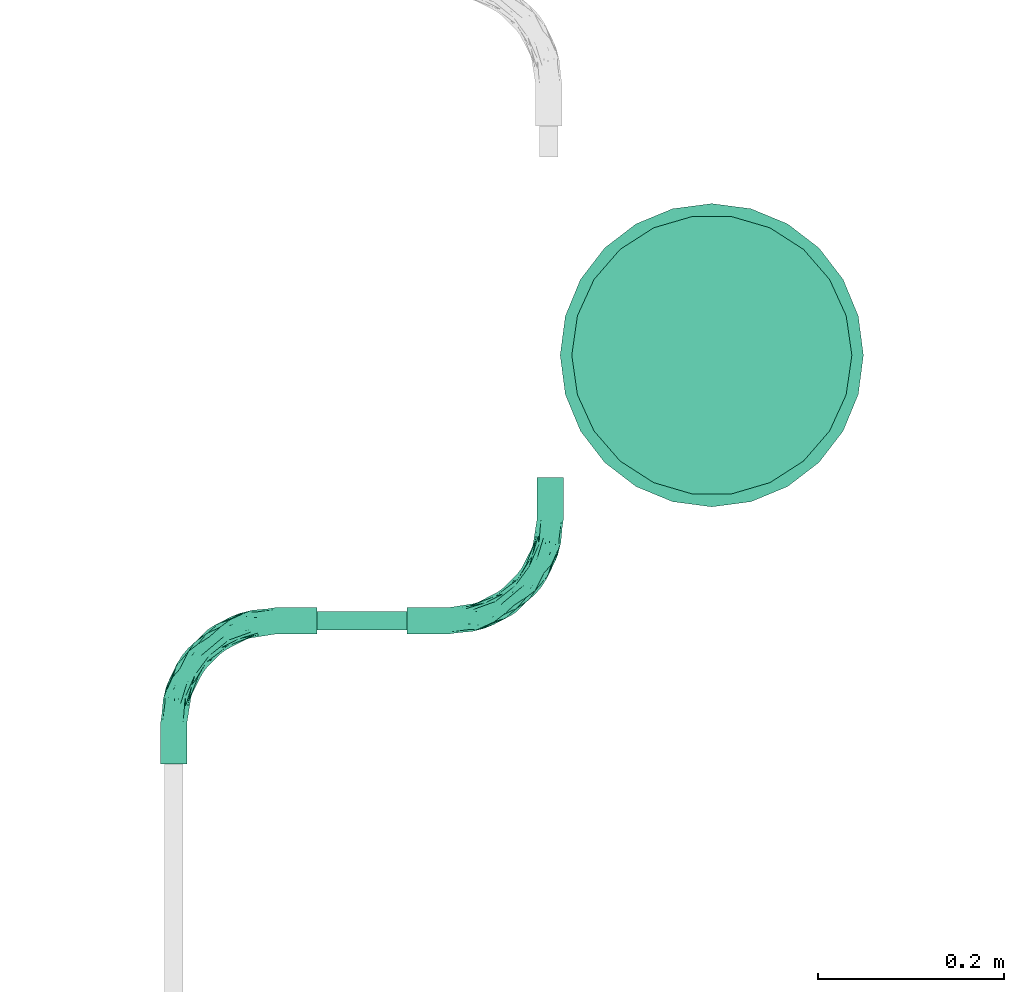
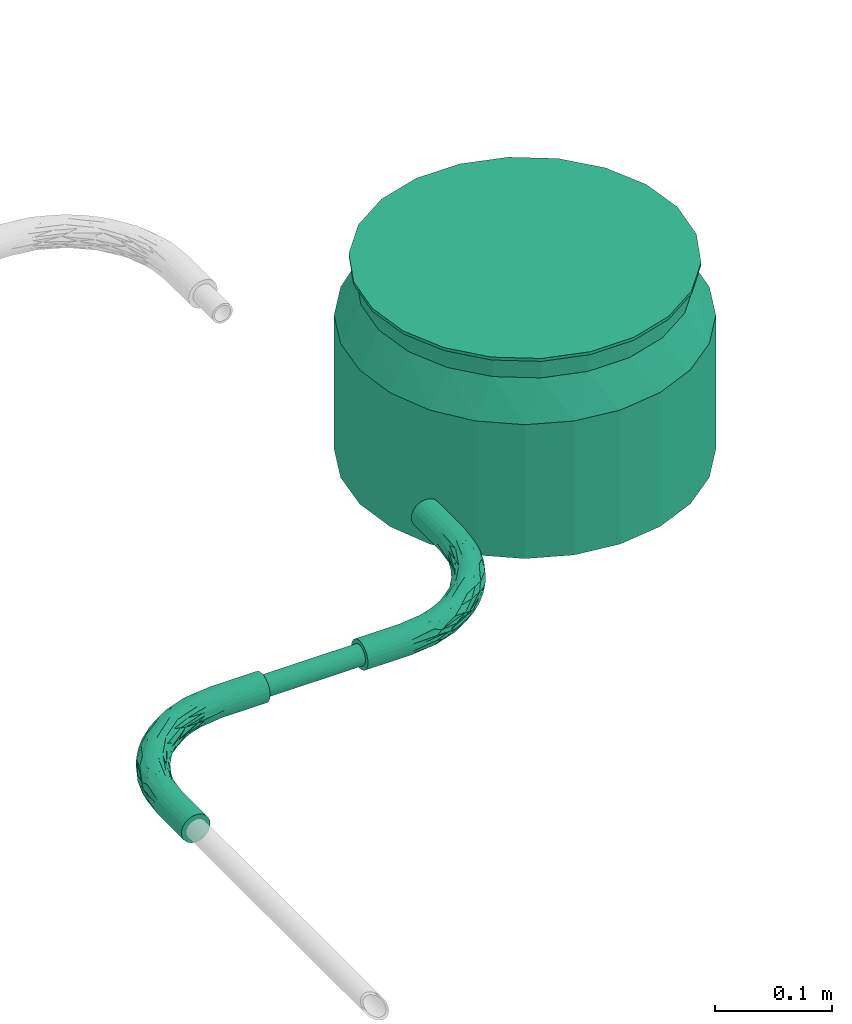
# One storey, part 25 of 51: 2 flow fittings, 1 flow segment, 1 flow terminal.
"""IFC2X3 building model written with IfcOpenShell, lengths in millimetres."""

from ifc_helpers import new_model, entity, si_unit, converted_unit, derived_unit, direction, frame, origin_with_axes, origin_2d_with_axis, place, context, subcontext, project, spatial, hollow_circle, extrude, open_shell, surface_model, source, transform, mapped, type_object, element, save


model = new_model("IFC2X3")

# Units and contexts
model_context = context("Model", 3, precision=0.01, world=frame((0.0, 4.29681676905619e-09, 0.0)), true_north=direction((4.01073788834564e-13, 1.0)))
plan_context = context("Plan", 3, precision=0.01, world=frame((0.0, 4.29681676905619e-09, 0.0)), true_north=direction((4.01073788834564e-13, 1.0)))
body_context = subcontext(model_context, "Body", "Model", "MODEL_VIEW")
ifc_project = project(units=[converted_unit("PLANEANGLEUNIT", "DEGREE", entity("IfcPositiveLengthMeasure", 0.0174532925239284), si_unit("PLANEANGLEUNIT", "RADIAN"), dimensions=[0, 0, 0, 0, 0, 0, 0]), si_unit("AREAUNIT", "SQUARE_METRE"), si_unit("LENGTHUNIT", "METRE", prefix="MILLI"), si_unit("MASSUNIT", "GRAM", prefix="KILO"), si_unit("POWERUNIT", "WATT"), si_unit("PRESSUREUNIT", "PASCAL"), si_unit("FORCEUNIT", "NEWTON", prefix="KILO"), si_unit("ELECTRICVOLTAGEUNIT", "VOLT"), si_unit("ELECTRICCURRENTUNIT", "AMPERE"), si_unit("THERMODYNAMICTEMPERATUREUNIT", "DEGREE_CELSIUS"), si_unit("TIMEUNIT", "SECOND"), si_unit("VOLUMEUNIT", "CUBIC_METRE"), derived_unit("LINEARVELOCITYUNIT", [(si_unit("LENGTHUNIT", "METRE"), 1), (si_unit("TIMEUNIT", "SECOND"), -1)]), derived_unit("VOLUMETRICFLOWRATEUNIT", [(si_unit("VOLUMEUNIT", "CUBIC_METRE"), 1), (si_unit("TIMEUNIT", "SECOND"), -1)]), derived_unit("THERMALTRANSMITTANCEUNIT", [(si_unit("POWERUNIT", "WATT"), 1), (si_unit("THERMODYNAMICTEMPERATUREUNIT", "KELVIN"), -1), (si_unit("AREAUNIT", "SQUARE_METRE"), -1)]), derived_unit("SOUNDPRESSUREUNIT", [(si_unit("PRESSUREUNIT", "PASCAL"), 1)])], contexts=[model_context, plan_context])

# Site, building, storey
site_placement = place(None, frame((0.0, -4.29681676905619e-09, 0.0), z_axis=(0.0, 0.0, 1.0), x_axis=(1.0, 0.0, 0.0)))
site = spatial("IfcSite", under=ifc_project, at=site_placement, Name="ENGM", CompositionType="ELEMENT")
building_placement = place(site_placement, frame((0.0, 4.29681676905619e-09, 0.0), z_axis=(0.0, 0.0, 1.0), x_axis=(1.0, 0.0, 0.0)))
building = spatial("IfcBuilding", under=site, at=building_placement, Name="TI", CompositionType="ELEMENT")
storey_placement = place(building_placement, frame((0.0, 0.0, 210900.0), z_axis=(0.0, 0.0, 1.0), x_axis=(1.0, 0.0, 0.0)))
storey = spatial("IfcBuildingStorey", under=building, at=storey_placement, Name="Nivå F", CompositionType="ELEMENT", Elevation=210900.0)

# Flow fittings
cable_carrier_fitting_type = type_object("IfcCableCarrierFittingType", Name="Trekkerør, glatt bend", PredefinedType="BEND")
shared_shape_1 = source(origin_with_axes(), body_context, "Body", "SurfaceModel", [
    surface_model("IfcShellBasedSurfaceModel", [(-154.55625, 0.0, -14.27109), (-154.55625, -13.78482, -3.69363), (-154.55625, 3.69363, -13.78482), (-154.55625, 7.13555, -12.35913), (-154.55625, 12.35913, -7.13555), (-154.55625, -14.27109, 0.0), (-154.55625, 10.09119, -10.09119), (-154.55625, -13.78482, 3.69363), (-154.55625, -10.09119, -10.09119), (-154.55625, -12.35913, -7.13555), (-154.55625, -7.13555, -12.35913), (-154.55625, -3.69363, -13.78482), (-154.55625, 13.78482, -3.69363), (-154.55625, 14.27109, 0.0), (-154.55625, -12.35913, 7.13555), (-154.55625, 13.78482, 3.69363), (-154.55625, 12.35913, 7.13555), (-154.55625, 7.13555, 12.35913), (-154.55625, -3.69363, 13.78482), (-154.55625, 10.09119, 10.09119), (-154.55625, 3.69363, 13.78482), (-154.55625, 0.0, 14.27109), (-154.55625, -10.09119, 10.09119), (-154.55625, -7.13555, 12.35913), (-109.53828, -14.27109, 0.0), (-109.53828, -13.78482, 3.69363), (-109.53828, -12.35913, 7.13555), (-109.53828, -10.09119, 10.09119), (-109.53828, -7.13555, 12.35913), (-109.53828, -3.69363, 13.78482), (-109.53828, 0.0, 14.27109), (-109.53828, 3.69363, 13.78482), (-109.53828, 7.13555, 12.35913), (-109.53828, 10.09119, 10.09119), (-109.53828, 12.35913, 7.13555), (-109.53828, 13.78482, 3.69363), (-109.53828, 14.27109, 0.0), (-109.53828, 13.78482, -3.69363), (-109.53828, 12.35913, -7.13555), (-109.53828, 10.09119, -10.09119), (-109.53828, 7.13555, -12.35913), (-109.53828, 3.69363, -13.78482), (-109.53828, 0.0, -14.27109), (-109.53828, -3.69363, -13.78482), (-109.53828, -7.13555, -12.35913), (-109.53828, -10.09119, -10.09119), (-109.53828, -12.35913, -7.13555), (-109.53828, -13.78482, -3.69363), (-3.69363, 109.53828, 13.78482), (-7.1534, 89.99414, 13.24855), (-5.52615, 80.75509, 14.17919), (-60.76988, -1.31586, 8.35584), (-86.74719, -9.26979, 8.53701), (-78.43143, -9.27777, 5.21969), (-54.57322, 16.38341, 14.20456), (-37.47603, 23.87443, 14.06701), (-28.15284, 38.55475, 14.18707), (-61.24691, 4.75102, 13.02092), (-78.33811, -4.70928, 11.16152), (-49.9274, 6.84288, 10.90618), (-95.50078, -12.04777, 0.0), (-71.27908, -8.21143, 0.0), (-84.10609, -11.40642, 2.49425), (-84.40829, 4.61635, 14.17552), (-21.30634, 35.06714, 12.98487), (-25.5172, 25.5172, 10.83717), (-6.52074, 51.84045, 11.43645), (-14.9351, 49.72791, 14.07022), (-36.13298, 13.4524, 8.61377), (-48.07555, 3.07814, 4.93607), (-22.8399, 22.8399, 5.72655), (-61.42092, -4.26023, 2.69213), (-43.25505, 5.21821, 2.45459), (-76.37759, 10.60152, 13.29307), (-84.26876, 11.72213, 11.45557), (-16.10152, 32.64981, 8.49548), (-91.7629, 12.84689, 8.81067), (-78.89232, 2.16712, 14.11264), (-86.94002, -3.39666, 13.1113), (-53.54164, 32.46551, 0.0), (-80.0991, 18.9338, 0.0), (-65.27277, 24.4813, 4.15685), (-70.11513, 19.34285, 8.96525), (-58.85951, 26.77111, 6.9074), (-87.03749, 15.77002, 5.64275), (-7.13555, 109.53828, 12.35913), (-10.09119, 109.53828, 10.09119), (-12.24312, 82.27842, 11.46622), (-88.43996, 16.36335, 2.74565), (-0.11486, 73.25678, 13.06442), (7.13555, 109.53828, 12.35913), (3.69363, 109.53828, 13.78482), (-41.93843, 41.93843, 3.06688), (-41.06778, 41.06778, 6.49711), (-12.84689, 91.7629, 8.81067), (-12.35913, 109.53828, 7.13555), (5.39094, 64.47541, 3.19158), (-3.07814, 48.07555, 4.93607), (-3.51803, 45.96754, 2.3263), (-36.76496, 9.37439, 0.0), (-23.06967, 23.06967, 0.0), (0.0, 109.53828, 14.27109), (-0.81133, 84.32322, 14.11955), (-41.69927, 29.72188, 13.44421), (12.35913, 109.53828, 7.13555), (9.27777, 78.43143, 5.21969), (13.78482, 109.53828, 3.69363), (-57.22502, 11.42573, 14.17543), (9.26979, 86.74719, 8.53701), (1.31586, 60.76988, 8.35584), (5.72038, 82.4285, 11.18319), (11.40642, 84.10609, 2.49425), (-59.15779, 20.7896, 12.14962), (-18.9338, 80.0991, 0.0), (-32.46551, 53.54164, 0.0), (-24.4813, 65.27277, 4.15685), (-16.36335, 88.43996, 2.74565), (-14.27109, 109.53828, 0.0), (-8.62571, 53.03293, 12.89354), (-13.78482, 109.53828, 3.69363), (-15.77002, 87.03749, 5.64275), (-37.83174, 37.83174, 11.72896), (-22.74629, 58.47709, 11.20332), (-35.02355, 44.66648, 9.39592), (-51.28798, 28.82677, 10.17947), (-14.20714, 66.91103, 13.32458), (10.09119, 109.53828, 10.09119), (12.04777, 95.50078, 0.0), (-26.77111, 58.85951, 6.9074), (-19.34285, 70.11513, 8.96525), (-22.27171, 49.8428, 13.75381), (-14.02071, 58.08047, 14.23303), (-38.19919, 17.37508, 12.43121), (-25.3167, 50.04426, 12.74411), (-58.12909, 18.65185, 13.32115), (-15.5265, 29.44086, 2.9254), (-54.02202, 0.58148, 0.0), (-9.37439, 36.76496, 0.0), (-0.58148, 54.02202, 0.0), (8.21143, 71.27908, 0.0), (14.27109, 109.53828, 0.0), (-82.27842, 12.24312, -11.46622), (-16.38341, 54.57322, -14.20456), (-23.87443, 37.47603, -14.06701), (-38.55475, 28.15284, -14.18707), (-91.7629, 12.84689, -8.81067), (-24.4813, 65.27277, -4.15685), (-88.43996, 16.36335, -2.74565), (-65.27277, 24.4813, -4.15685), (-87.03749, 15.77002, -5.64275), (12.35913, 109.53828, -7.13555), (13.78482, 109.53828, -3.69363), (9.27777, 78.43143, -5.21969), (-84.10609, -11.40642, -2.49425), (-61.42092, -4.26023, -2.69213), (-41.93843, 41.93843, -3.06688), (-4.61635, 84.40829, -14.17552), (-3.69363, 109.53828, -13.78482), (0.0, 109.53828, -14.27109), (-48.07555, 3.07814, -4.93607), (-78.43143, -9.27777, -5.21969), (-60.76988, -1.31586, -8.35584), (-82.4285, -5.72038, -11.18319), (-51.84045, 6.52074, -11.43645), (-86.74719, -9.26979, -8.53701), (3.39666, 86.94002, -13.1113), (4.70928, 78.33811, -11.16152), (-4.75102, 61.24691, -13.02092), (-3.51803, 45.96754, -2.3263), (-15.5265, 29.44086, -2.9254), (-73.25678, 0.11486, -13.06442), (11.40642, 84.10609, -2.49425), (-84.32322, 0.81133, -14.11955), (-11.42573, 57.22502, -14.17543), (-3.07814, 48.07555, -4.93607), (1.31586, 60.76988, -8.35584), (-89.99414, 7.1534, -13.24855), (-10.60152, 76.37759, -13.29307), (-6.84288, 49.9274, -10.90618), (-2.16712, 78.89232, -14.11264), (-13.4524, 36.13298, -8.61377), (-25.5172, 25.5172, -10.83717), (-13.78482, 109.53828, -3.69363), (-16.36335, 88.43996, -2.74565), (3.69363, 109.53828, -13.78482), (-26.77111, 58.85951, -6.9074), (-15.77002, 87.03749, -5.64275), (-19.34285, 70.11513, -8.96525), (-12.35913, 109.53828, -7.13555), (-80.75509, 5.52615, -14.17919), (10.09119, 109.53828, -10.09119), (9.26979, 86.74719, -8.53701), (-10.09119, 109.53828, -10.09119), (-7.13555, 109.53828, -12.35913), (-11.72213, 84.26876, -11.45557), (-35.06714, 21.30634, -12.98487), (-32.64981, 16.10152, -8.49548), (-41.06778, 41.06777, -6.49711), (-29.72188, 41.69927, -13.44421), (7.13555, 109.53828, -12.35913), (-58.47709, 22.74629, -11.20332), (-66.91103, 14.20714, -13.32458), (-22.8399, 22.8399, -5.72655), (-49.72791, 14.9351, -14.07022), (-44.66648, 35.02355, -9.39592), (-28.82677, 51.28798, -10.17947), (-37.83174, 37.83174, -11.72896), (-20.7896, 59.15779, -12.14962), (-43.25505, 5.21821, -2.45459), (-53.03293, 8.62571, -12.89354), (-12.84689, 91.7629, -8.81067), (-58.85951, 26.77111, -6.9074), (-70.11513, 19.34285, -8.96525), (-49.8428, 22.27171, -13.75381), (-58.08047, 14.02071, -14.23303), (-17.37508, 38.19919, -12.43121), (-50.04426, 25.3167, -12.74411), (-18.65185, 58.12909, -13.32115), (5.39094, 64.47541, -3.19158), (-13.78482, 154.55625, -3.69363), (0.0, 154.55625, -14.27109), (-3.69363, 154.55625, -13.78482), (-12.35913, 154.55625, -7.13555), (-7.13555, 154.55625, -12.35913), (-10.09119, 154.55625, -10.09119), (14.27109, 154.55625, 0.0), (7.13555, 154.55625, -12.35913), (12.35913, 154.55625, -7.13555), (10.09119, 154.55625, -10.09119), (3.69363, 154.55625, -13.78482), (13.78482, 154.55625, -3.69363), (-14.27109, 154.55625, 0.0), (13.78482, 154.55625, 3.69363), (-13.78482, 154.55625, 3.69363), (-7.13555, 154.55625, 12.35913), (-12.35913, 154.55625, 7.13555), (-10.09119, 154.55625, 10.09119), (0.0, 154.55625, 14.27109), (-3.69363, 154.55625, 13.78482), (10.09119, 154.55625, 10.09119), (12.35913, 154.55625, 7.13555), (3.69363, 154.55625, 13.78482), (7.13555, 154.55625, 12.35913)], [open_shell([[[0, 1, 2]], [[3, 2, 4]], [[5, 4, 2]], [[6, 3, 4]], [[5, 7, 4]], [[8, 9, 10]], [[0, 11, 10]], [[9, 1, 10]], [[1, 0, 10]], [[2, 1, 5]], [[7, 12, 4]], [[13, 14, 15]], [[16, 15, 17]], [[17, 15, 18]], [[19, 16, 17]], [[20, 17, 21]], [[22, 18, 14]], [[13, 7, 14]], [[23, 18, 22]], [[14, 18, 15]], [[18, 21, 17]], [[12, 7, 13]], [[7, 24, 25]], [[26, 14, 25]], [[23, 27, 28]], [[26, 27, 22]], [[18, 28, 29]], [[24, 7, 5]], [[25, 14, 7]], [[26, 22, 14]], [[27, 23, 22]], [[18, 23, 28]], [[29, 21, 18]], [[29, 30, 21]], [[17, 31, 32]], [[33, 19, 32]], [[15, 34, 35]], [[33, 34, 16]], [[13, 35, 36]], [[31, 20, 30]], [[31, 17, 20]], [[30, 20, 21]], [[32, 19, 17]], [[33, 16, 19]], [[15, 16, 34]], [[35, 13, 15]], [[12, 36, 37]], [[38, 4, 37]], [[3, 39, 40]], [[38, 39, 6]], [[2, 40, 41]], [[36, 12, 13]], [[37, 4, 12]], [[38, 6, 4]], [[39, 3, 6]], [[2, 3, 40]], [[41, 0, 2]], [[41, 42, 0]], [[10, 43, 44]], [[45, 8, 44]], [[1, 46, 47]], [[45, 46, 9]], [[5, 47, 24]], [[43, 11, 42]], [[43, 10, 11]], [[42, 11, 0]], [[44, 8, 10]], [[45, 9, 8]], [[1, 9, 46]], [[47, 5, 1]], [[48, 49, 50]], [[51, 52, 53]], [[54, 55, 56]], [[57, 58, 59]], [[60, 61, 62]], [[63, 31, 30]], [[58, 28, 27]], [[25, 60, 62]], [[64, 65, 66]], [[27, 52, 58]], [[67, 55, 64]], [[68, 69, 70]], [[71, 72, 69]], [[31, 73, 32]], [[26, 25, 53]], [[33, 32, 74]], [[75, 65, 68]], [[34, 33, 76]], [[77, 29, 78]], [[53, 69, 51]], [[79, 80, 81]], [[82, 83, 84]], [[85, 86, 87]], [[36, 35, 88]], [[35, 34, 84]], [[89, 90, 91]], [[92, 81, 93]], [[94, 86, 95]], [[28, 78, 29]], [[96, 97, 98]], [[99, 100, 72]], [[29, 77, 30]], [[101, 50, 102]], [[59, 58, 51]], [[54, 56, 103]], [[101, 102, 91]], [[104, 105, 106]], [[85, 49, 48]], [[107, 57, 55]], [[105, 104, 108]], [[97, 105, 109]], [[89, 110, 90]], [[68, 65, 59]], [[111, 106, 105]], [[63, 54, 73]], [[112, 82, 74]], [[113, 114, 115]], [[92, 115, 114]], [[77, 63, 30]], [[113, 116, 117]], [[48, 50, 101]], [[27, 26, 52]], [[64, 66, 118]], [[95, 119, 120]], [[116, 115, 120]], [[114, 79, 92]], [[121, 122, 123]], [[123, 124, 121]], [[122, 125, 87]], [[87, 86, 94]], [[109, 110, 66]], [[74, 32, 73]], [[90, 110, 126]], [[104, 126, 108]], [[78, 58, 57]], [[121, 112, 103]], [[75, 97, 109]], [[106, 111, 127]], [[84, 88, 35]], [[83, 93, 81]], [[93, 128, 115]], [[94, 120, 129]], [[125, 130, 131]], [[102, 67, 89]], [[122, 87, 129]], [[49, 87, 125]], [[66, 110, 89]], [[108, 110, 109]], [[118, 67, 64]], [[66, 65, 75]], [[112, 74, 73]], [[76, 74, 82]], [[63, 77, 107]], [[73, 31, 63]], [[102, 50, 131]], [[89, 91, 102]], [[67, 56, 55]], [[65, 132, 59]], [[107, 55, 54]], [[132, 55, 57]], [[131, 50, 125]], [[125, 122, 133]], [[134, 54, 103]], [[112, 121, 124]], [[134, 112, 73]], [[133, 130, 125]], [[53, 62, 71]], [[70, 69, 72]], [[97, 70, 135]], [[97, 135, 98]], [[84, 34, 76]], [[88, 81, 80]], [[116, 120, 119]], [[120, 115, 128]], [[81, 92, 79]], [[115, 92, 93]], [[58, 78, 28]], [[77, 78, 57]], [[53, 52, 26]], [[58, 52, 51]], [[110, 108, 126]], [[105, 108, 109]], [[68, 59, 51]], [[65, 64, 132]], [[69, 68, 51]], [[75, 68, 70]], [[97, 75, 70]], [[66, 75, 109]], [[87, 49, 85]], [[50, 49, 125]], [[129, 128, 123]], [[122, 121, 133]], [[129, 123, 122]], [[83, 124, 123]], [[83, 123, 93]], [[112, 124, 82]], [[121, 103, 133]], [[130, 103, 56]], [[103, 130, 133]], [[130, 56, 131]], [[56, 67, 131]], [[102, 131, 67]], [[81, 88, 84]], [[36, 88, 80]], [[117, 116, 119]], [[115, 116, 113]], [[55, 132, 64]], [[57, 59, 132]], [[25, 24, 60]], [[71, 62, 61]], [[25, 62, 53]], [[136, 99, 72]], [[53, 71, 69]], [[72, 71, 136]], [[137, 135, 100]], [[100, 135, 72]], [[135, 137, 98]], [[72, 135, 70]], [[98, 137, 138]], [[139, 111, 96]], [[71, 61, 136]], [[96, 138, 139]], [[127, 111, 139]], [[127, 140, 106]], [[96, 111, 105]], [[97, 96, 105]], [[96, 98, 138]], [[74, 76, 33]], [[84, 76, 82]], [[120, 94, 95]], [[87, 94, 129]], [[84, 83, 81]], [[124, 83, 82]], [[123, 128, 93]], [[120, 128, 129]], [[66, 89, 118]], [[67, 118, 89]], [[63, 107, 54]], [[57, 107, 77]], [[54, 134, 73]], [[103, 112, 134]], [[39, 141, 40]], [[142, 143, 144]], [[141, 39, 145]], [[114, 113, 146]], [[147, 148, 149]], [[150, 151, 152]], [[80, 147, 36]], [[61, 153, 154]], [[80, 79, 148]], [[155, 148, 79]], [[156, 157, 158]], [[37, 149, 38]], [[159, 160, 161]], [[161, 162, 163]], [[160, 46, 164]], [[165, 166, 167]], [[153, 47, 160]], [[168, 137, 169]], [[162, 44, 170]], [[151, 127, 171]], [[172, 43, 42]], [[173, 167, 143]], [[46, 160, 47]], [[44, 43, 170]], [[152, 174, 175]], [[45, 164, 46]], [[41, 40, 176]], [[156, 142, 177]], [[178, 166, 175]], [[179, 156, 158]], [[79, 114, 155]], [[180, 181, 178]], [[117, 182, 183]], [[184, 179, 158]], [[185, 186, 187]], [[188, 186, 182]], [[41, 176, 189]], [[190, 150, 191]], [[192, 193, 194]], [[195, 181, 163]], [[184, 165, 179]], [[44, 162, 45]], [[196, 181, 180]], [[146, 197, 155]], [[142, 144, 198]], [[165, 184, 199]], [[166, 190, 191]], [[200, 201, 141]], [[157, 177, 193]], [[174, 202, 180]], [[190, 166, 199]], [[143, 195, 203]], [[166, 178, 167]], [[204, 205, 206]], [[171, 127, 139]], [[41, 189, 42]], [[206, 207, 198]], [[152, 175, 191]], [[194, 193, 177]], [[208, 202, 169]], [[206, 200, 204]], [[172, 42, 189]], [[195, 163, 209]], [[210, 188, 192]], [[207, 187, 194]], [[145, 39, 38]], [[196, 159, 161]], [[47, 153, 60]], [[186, 183, 182]], [[185, 197, 146]], [[197, 211, 148]], [[145, 149, 212]], [[201, 213, 214]], [[172, 203, 170]], [[200, 141, 212]], [[176, 141, 201]], [[163, 162, 170]], [[164, 162, 161]], [[209, 203, 195]], [[163, 181, 196]], [[207, 194, 177]], [[210, 194, 187]], [[156, 179, 173]], [[177, 157, 156]], [[172, 189, 214]], [[170, 43, 172]], [[203, 144, 143]], [[181, 215, 178]], [[173, 143, 142]], [[215, 143, 167]], [[214, 189, 201]], [[201, 200, 216]], [[217, 142, 198]], [[207, 206, 205]], [[217, 207, 177]], [[216, 213, 201]], [[152, 171, 218]], [[202, 174, 169]], [[100, 208, 169]], [[208, 136, 154]], [[186, 188, 210]], [[183, 146, 113]], [[147, 149, 37]], [[149, 148, 211]], [[146, 155, 114]], [[148, 155, 197]], [[166, 165, 199]], [[179, 165, 167]], [[152, 191, 150]], [[166, 191, 175]], [[162, 164, 45]], [[160, 164, 161]], [[180, 178, 175]], [[181, 195, 215]], [[174, 180, 175]], [[196, 180, 202]], [[159, 196, 202]], [[163, 196, 161]], [[141, 176, 40]], [[189, 176, 201]], [[212, 211, 204]], [[200, 206, 216]], [[212, 204, 200]], [[185, 205, 204]], [[185, 204, 197]], [[207, 205, 187]], [[206, 198, 216]], [[213, 198, 144]], [[198, 213, 216]], [[213, 144, 214]], [[144, 203, 214]], [[172, 214, 203]], [[146, 183, 186]], [[117, 183, 113]], [[36, 147, 37]], [[148, 147, 80]], [[143, 215, 195]], [[167, 178, 215]], [[60, 153, 61]], [[60, 24, 47]], [[154, 160, 159]], [[160, 154, 153]], [[208, 154, 159]], [[202, 208, 159]], [[151, 140, 127]], [[100, 169, 137]], [[99, 208, 100]], [[168, 169, 174]], [[218, 174, 152]], [[218, 138, 168]], [[136, 208, 99]], [[138, 137, 168]], [[136, 61, 154]], [[139, 138, 218]], [[151, 171, 152]], [[139, 218, 171]], [[174, 218, 168]], [[194, 210, 192]], [[186, 210, 187]], [[149, 145, 38]], [[141, 145, 212]], [[186, 185, 146]], [[205, 185, 187]], [[204, 211, 197]], [[149, 211, 212]], [[163, 170, 209]], [[203, 209, 170]], [[156, 173, 142]], [[167, 173, 179]], [[142, 217, 177]], [[198, 207, 217]], [[219, 220, 221]], [[222, 221, 223]], [[222, 219, 221]], [[222, 223, 224]], [[220, 219, 225]], [[226, 227, 228]], [[226, 229, 220]], [[226, 230, 227]], [[226, 220, 230]], [[225, 230, 220]], [[219, 231, 225]], [[232, 225, 233]], [[234, 233, 235]], [[232, 233, 234]], [[234, 235, 236]], [[237, 234, 238]], [[232, 239, 240]], [[239, 232, 241]], [[239, 241, 242]], [[232, 234, 241]], [[234, 237, 241]], [[233, 225, 231]], [[106, 225, 232]], [[240, 104, 232]], [[90, 239, 242]], [[240, 239, 126]], [[91, 242, 241]], [[225, 106, 140]], [[232, 104, 106]], [[240, 126, 104]], [[239, 90, 126]], [[91, 90, 242]], [[241, 101, 91]], [[241, 237, 101]], [[85, 238, 234]], [[236, 86, 234]], [[119, 235, 233]], [[236, 235, 95]], [[117, 233, 231]], [[238, 48, 237]], [[238, 85, 48]], [[237, 48, 101]], [[234, 86, 85]], [[236, 95, 86]], [[119, 95, 235]], [[233, 117, 119]], [[182, 231, 219]], [[222, 188, 219]], [[193, 224, 223]], [[222, 224, 192]], [[157, 223, 221]], [[231, 182, 117]], [[219, 188, 182]], [[222, 192, 188]], [[224, 193, 192]], [[157, 193, 223]], [[221, 158, 157]], [[221, 220, 158]], [[199, 229, 226]], [[228, 190, 226]], [[151, 227, 230]], [[228, 227, 150]], [[140, 230, 225]], [[229, 184, 220]], [[229, 199, 184]], [[220, 184, 158]], [[226, 190, 199]], [[228, 150, 190]], [[151, 150, 227]], [[230, 140, 151]]])]),
])
for number, where, z_axis, x_axis, name in (
    (1, (611382.66348, 698599.84468, -110.0), (0.0, 0.0, 1.0), (-1.0, 0.0, 0.0), "Trekkerør, glatt bend"),
    (2, (611788.38779, 698599.84468, -110.0), (0.0, 0.0, 1.0), (1.0, 0.0, 0.0), "Trekkerør, glatt bend"),
):
    element("IfcFlowFitting", number, at=place(storey_placement, frame(where, z_axis=z_axis, x_axis=x_axis)), inside=storey, type_object=cable_carrier_fitting_type, Name=name, context=body_context, shape_type="MappedRepresentation", body=[
        mapped(shared_shape_1, transform((0.0, 0.0, 0.0), scale=1.0)),
    ])

# Flow segment
cable_carrier_segment_type = type_object("IfcCableCarrierSegmentType", Name="Trekkerør, korrugert", PredefinedType="CONDUITSEGMENT")
shared_shape_2 = source(origin_with_axes(), body_context, "Body", "SweptSolid", [
    extrude(hollow_circle(Radius=10.0, WallThickness=2.0, at=origin_2d_with_axis()), frame((0.0, 0.0, 0.0), z_axis=(1.0, 0.0, 0.0), x_axis=(0.0, 1.0, 0.0)), (0.0, 0.0, 1.0), 96.6),
])
flow_segment_placement = place(storey_placement, frame((611537.21973, 698599.84468, -110.0), z_axis=(0.0, 0.0, 1.0), x_axis=(1.0, 0.0, 0.0)))
element("IfcFlowSegment", 3, at=flow_segment_placement, inside=storey, type_object=cable_carrier_segment_type, Name="Trekkerør, korrugert", context=body_context, shape_type="MappedRepresentation", body=[
    mapped(shared_shape_2, transform((0.0, 0.0, 0.0), scale=1.0)),
])

# Flow terminal
light_fixture_type = type_object("IfcLightFixtureType", Name="IB3223 Zumtobel Thorn MICA SLIM I 9L90 ACC 8D 840 RS SF", PredefinedType="NOTDEFINED")
shared_shape_3 = source(origin_with_axes(), body_context, "Body", "SurfaceModel", [
    surface_model("IfcShellBasedSurfaceModel", [(98.84497, 114.07318, 3.0), (98.84497, 114.07318, 6.02001), (126.97919, 81.60457, 6.02001), (126.97919, 81.60457, 3.0), (126.97919, -81.60457, 6.02001), (98.84497, -114.07318, 6.02001), (98.84497, -114.07318, 3.0), (126.97919, -81.60457, 3.0), (-115.55577, 115.55577, -193.98), (-141.52634, 81.71027, -53.97999), (-115.55577, 115.55577, -53.97999), (-141.52634, 81.71027, -193.98), (-157.85212, 42.29635, -53.97999), (-141.52634, -81.71027, -53.97999), (-157.85212, -42.29635, -53.97999), (-141.52634, -81.71027, -193.98), (-115.55577, -115.55577, -53.97999), (-115.55577, -115.55577, -193.98), (115.55577, 115.55577, -193.98), (0.0, 0.0, -193.98), (81.71027, 141.52634, -193.98), (0.0, 163.42053, -193.98), (42.29635, 157.85212, -193.98), (-163.42053, 0.0, -193.98), (-157.85212, 42.29635, -193.98), (81.71027, -141.52634, -193.98), (115.55577, -115.55577, -193.98), (42.29635, -157.85212, -193.98), (0.0, -163.42053, -193.98), (-157.85212, -42.29635, -193.98), (0.0, 0.0, 6.02001), (150.94045, 0.0, 6.02001), (144.8263, 42.52484, 6.02001), (-144.8263, 42.52484, 6.02001), (-150.94045, 0.0, 6.02001), (-62.70293, 137.30026, 6.02001), (-98.84497, 114.07318, 6.02001), (144.8263, -42.52484, 6.02001), (-98.84497, -114.07318, 6.02001), (-62.70293, -137.30026, 6.02001), (-144.8263, -42.52484, 6.02001), (121.68032, 78.1992, -18.66209), (121.68032, 78.1992, 3.0), (138.78267, 40.75027, 3.0), (94.72015, 109.31289, -18.66209), (94.72015, 109.31289, 3.0), (138.78267, 40.75027, -18.66209), (144.64168, 0.0, 3.0), (138.78267, -40.75027, 3.0), (121.68032, -78.1992, 3.0), (121.68032, -78.1992, -18.66209), (138.78267, -40.75027, -18.66209), (94.72015, -109.31289, 3.0), (94.72015, -109.31289, -18.66209), (-138.78267, 40.75027, -18.66209), (-94.72015, 109.31289, -18.66209), (-81.71027, 141.52634, -53.97999), (-20.58466, 143.16943, -18.66209), (0.0, 163.42053, -53.97999), (-42.29635, 157.85212, -53.97999), (60.08633, 131.57069, -18.66209), (81.71027, 141.52634, -53.97999), (20.58466, 143.16943, -18.66209), (42.29635, 157.85212, -53.97999), (144.64168, 0.0, -18.66209), (163.42053, 0.0, -53.97999), (157.85212, 42.29635, -53.97999), (81.71027, -141.52634, -53.97999), (60.08633, -131.57069, -18.66209), (42.29635, -157.85212, -53.97999), (20.58466, -143.16943, -18.66209), (157.85212, -42.29635, -53.97999), (-42.29635, -157.85212, -53.97999), (0.0, -163.42053, -53.97999), (-20.58466, -143.16943, -18.66209), (-138.78267, -40.75027, -18.66209), (-81.71027, -141.52634, -53.97999), (-94.72015, -109.31289, -18.66209), (-144.8263, -42.52484, 3.0), (-126.97919, -81.60457, 3.0), (-126.97919, -81.60457, 6.02001), (-62.70293, -137.30026, 3.0), (-98.84497, -114.07318, 3.0), (-21.48107, -149.40409, 6.02001), (-21.48107, -149.40409, 3.0), (-150.94045, 0.0, 3.0), (21.48107, -149.40409, 3.0), (21.48107, -149.40409, 6.02001), (62.70293, -137.30026, 3.0), (62.70293, -137.30026, 6.02001), (144.8263, -42.52484, 3.0), (150.94045, 0.0, 3.0), (144.8263, 42.52484, 3.0), (62.70293, 137.30026, 6.02001), (62.70293, 137.30026, 3.0), (21.48107, 149.40409, 6.02001), (21.48107, 149.40409, 3.0), (-21.48107, 149.40409, 3.0), (-21.48107, 149.40409, 6.02001), (-62.70293, 137.30026, 3.0), (-98.84497, 114.07318, 3.0), (-126.97919, 81.60457, 6.02001), (-144.8263, 42.52484, 3.0), (-126.97919, 81.60457, 3.0), (60.08633, -131.57069, 3.0), (20.58466, -143.16943, 3.0), (-20.58466, -143.16943, 3.0), (-138.78267, -40.75027, 3.0), (-121.68032, -78.1992, 3.0), (-144.64168, 0.0, 3.0), (-60.08633, -131.57069, 3.0), (-94.72015, -109.31289, 3.0), (60.08633, 131.57069, 3.0), (20.58466, 143.16943, 3.0), (-20.58466, 143.16943, 3.0), (-60.08633, 131.57069, 3.0), (-94.72015, 109.31289, 3.0), (-121.68032, 78.1992, 3.0), (-138.78267, 40.75027, 3.0), (-81.71027, -141.52634, -193.98), (-42.29635, -157.85212, -193.98), (-163.42053, 0.0, -53.97999), (115.55577, -115.55577, -53.97999), (157.85212, -42.29635, -193.98), (141.52634, -81.71027, -193.98), (141.52634, -81.71027, -53.97999), (163.42053, 0.0, -193.98), (157.85212, 42.29635, -193.98), (141.52634, 81.71027, -53.97999), (115.55577, 115.55577, -53.97999), (141.52634, 81.71027, -193.98), (-81.71027, 141.52634, -193.98), (-42.29635, 157.85212, -193.98), (-121.68032, -78.1992, -18.66209), (-60.08633, -131.57069, -18.66209), (-144.64168, 0.0, -18.66209), (-60.08633, 131.57069, -18.66209), (-121.68032, 78.1992, -18.66209)], [open_shell([[[0, 1, 2]], [[0, 2, 3]], [[4, 5, 6]], [[7, 4, 6]], [[8, 9, 10]], [[11, 12, 9]], [[13, 14, 15]], [[16, 13, 17]], [[18, 19, 20]], [[19, 21, 22]], [[8, 19, 11]], [[19, 23, 24]], [[25, 19, 26]], [[27, 28, 19]], [[15, 19, 17]], [[29, 23, 19]], [[30, 2, 1]], [[31, 32, 30]], [[33, 34, 30]], [[30, 35, 36]], [[5, 4, 30]], [[30, 37, 31]], [[38, 39, 30]], [[30, 34, 40]], [[41, 42, 43]], [[44, 45, 42]], [[46, 43, 47]], [[46, 41, 43]], [[48, 49, 50]], [[47, 48, 51]], [[49, 52, 53]], [[48, 50, 51]], [[54, 9, 12]], [[55, 56, 10]], [[57, 58, 59]], [[60, 44, 61]], [[62, 60, 63]], [[64, 65, 66]], [[62, 58, 57]], [[67, 53, 68]], [[69, 68, 70]], [[71, 65, 64]], [[72, 73, 74]], [[14, 13, 75]], [[16, 76, 77]], [[74, 73, 70]], [[34, 78, 40]], [[40, 79, 80]], [[39, 38, 81]], [[82, 38, 80]], [[83, 39, 84]], [[34, 85, 78]], [[40, 78, 79]], [[38, 82, 81]], [[39, 81, 84]], [[82, 80, 79]], [[84, 86, 83]], [[87, 88, 89]], [[89, 6, 5]], [[37, 4, 7]], [[31, 37, 90]], [[87, 86, 88]], [[89, 88, 6]], [[37, 7, 90]], [[31, 90, 91]], [[83, 86, 87]], [[31, 92, 32]], [[32, 3, 2]], [[93, 1, 94]], [[95, 93, 96]], [[31, 91, 92]], [[32, 92, 3]], [[1, 0, 94]], [[93, 94, 96]], [[96, 97, 95]], [[98, 99, 35]], [[35, 100, 36]], [[33, 101, 102]], [[103, 101, 36]], [[34, 33, 85]], [[98, 97, 99]], [[35, 99, 100]], [[101, 103, 102]], [[33, 102, 85]], [[103, 36, 100]], [[95, 97, 98]], [[90, 47, 91]], [[48, 47, 90]], [[7, 49, 48]], [[6, 49, 7]], [[90, 7, 48]], [[88, 52, 6]], [[49, 6, 52]], [[104, 52, 88]], [[86, 105, 104]], [[106, 105, 86]], [[88, 86, 104]], [[79, 107, 108]], [[78, 107, 79]], [[82, 79, 108]], [[78, 85, 109]], [[107, 78, 109]], [[84, 110, 106]], [[81, 110, 84]], [[86, 84, 106]], [[82, 111, 81]], [[110, 81, 111]], [[108, 111, 82]], [[45, 94, 0]], [[112, 94, 45]], [[42, 45, 0]], [[113, 96, 112]], [[94, 112, 96]], [[114, 96, 113]], [[47, 92, 91]], [[43, 92, 47]], [[42, 3, 43]], [[92, 43, 3]], [[0, 3, 42]], [[115, 97, 114]], [[96, 114, 97]], [[99, 97, 115]], [[116, 100, 99]], [[117, 100, 116]], [[115, 116, 99]], [[118, 103, 117]], [[100, 117, 103]], [[102, 103, 118]], [[85, 102, 109]], [[118, 109, 102]], [[76, 119, 72]], [[76, 16, 17]], [[73, 72, 120]], [[29, 121, 23]], [[29, 14, 121]], [[17, 13, 15]], [[17, 119, 76]], [[15, 14, 29]], [[119, 120, 72]], [[120, 28, 73]], [[25, 122, 67]], [[27, 67, 69]], [[123, 65, 71]], [[124, 71, 125]], [[26, 125, 122]], [[28, 27, 69]], [[27, 25, 67]], [[25, 26, 122]], [[26, 124, 125]], [[71, 124, 123]], [[123, 126, 65]], [[73, 28, 69]], [[127, 128, 66]], [[126, 66, 65]], [[20, 63, 61]], [[18, 61, 129]], [[130, 129, 128]], [[127, 130, 128]], [[66, 126, 127]], [[18, 20, 61]], [[129, 130, 18]], [[22, 63, 20]], [[22, 21, 58]], [[63, 22, 58]], [[131, 10, 56]], [[132, 56, 59]], [[24, 121, 12]], [[21, 132, 59]], [[132, 131, 56]], [[131, 8, 10]], [[8, 11, 9]], [[12, 11, 24]], [[24, 23, 121]], [[58, 21, 59]], [[123, 19, 126]], [[124, 19, 123]], [[26, 19, 124]], [[25, 27, 19]], [[15, 29, 19]], [[28, 120, 19]], [[119, 19, 120]], [[17, 19, 119]], [[22, 20, 19]], [[19, 130, 127]], [[19, 18, 130]], [[19, 127, 126]], [[131, 132, 19]], [[8, 131, 19]], [[24, 11, 19]], [[21, 19, 132]], [[37, 30, 4]], [[5, 30, 89]], [[87, 89, 30]], [[30, 40, 80]], [[83, 30, 39]], [[80, 38, 30]], [[30, 83, 87]], [[30, 1, 93]], [[30, 32, 2]], [[93, 95, 30]], [[30, 98, 35]], [[30, 101, 33]], [[101, 30, 36]], [[98, 30, 95]], [[108, 107, 133]], [[75, 107, 109]], [[110, 111, 134]], [[77, 111, 108]], [[74, 106, 110]], [[135, 75, 109]], [[75, 133, 107]], [[111, 77, 134]], [[110, 134, 74]], [[133, 77, 108]], [[74, 70, 106]], [[105, 68, 104]], [[104, 53, 52]], [[105, 70, 68]], [[104, 68, 53]], [[47, 51, 64]], [[50, 49, 53]], [[106, 70, 105]], [[62, 113, 112]], [[60, 112, 45]], [[47, 64, 46]], [[42, 41, 44]], [[45, 44, 60]], [[60, 62, 112]], [[62, 57, 113]], [[116, 115, 55]], [[115, 114, 136]], [[118, 117, 54]], [[137, 117, 116]], [[109, 118, 135]], [[114, 57, 136]], [[115, 136, 55]], [[117, 137, 54]], [[118, 54, 135]], [[137, 116, 55]], [[113, 57, 114]], [[135, 14, 75]], [[75, 13, 133]], [[134, 77, 76]], [[16, 77, 133]], [[74, 134, 72]], [[135, 121, 14]], [[133, 13, 16]], [[76, 72, 134]], [[51, 50, 125]], [[53, 122, 50]], [[64, 51, 71]], [[73, 69, 70]], [[67, 68, 69]], [[125, 50, 122]], [[71, 51, 125]], [[122, 53, 67]], [[64, 66, 46]], [[46, 128, 41]], [[129, 44, 41]], [[66, 128, 46]], [[129, 61, 44]], [[41, 128, 129]], [[61, 63, 60]], [[63, 58, 62]], [[57, 59, 136]], [[136, 56, 55]], [[54, 137, 9]], [[10, 137, 55]], [[135, 54, 12]], [[59, 56, 136]], [[9, 137, 10]], [[135, 12, 121]]])]),
])
flow_terminal_placement = place(storey_placement, frame((611962.50563, 698886.10296, 10.0), z_axis=(0.0, 0.0, 1.0), x_axis=(1.0, 0.0, 0.0)))
element("IfcFlowTerminal", 4, at=flow_terminal_placement, inside=storey, type_object=light_fixture_type, Name="IB3223 Zumtobel Thorn MICA SLIM I 9L90 ACC 8D 840 RS SF", context=body_context, shape_type="MappedRepresentation", body=[
    mapped(shared_shape_3, transform((0.0, 0.0, 0.0), scale=1.0)),
])

save(model, "model.ifc")
